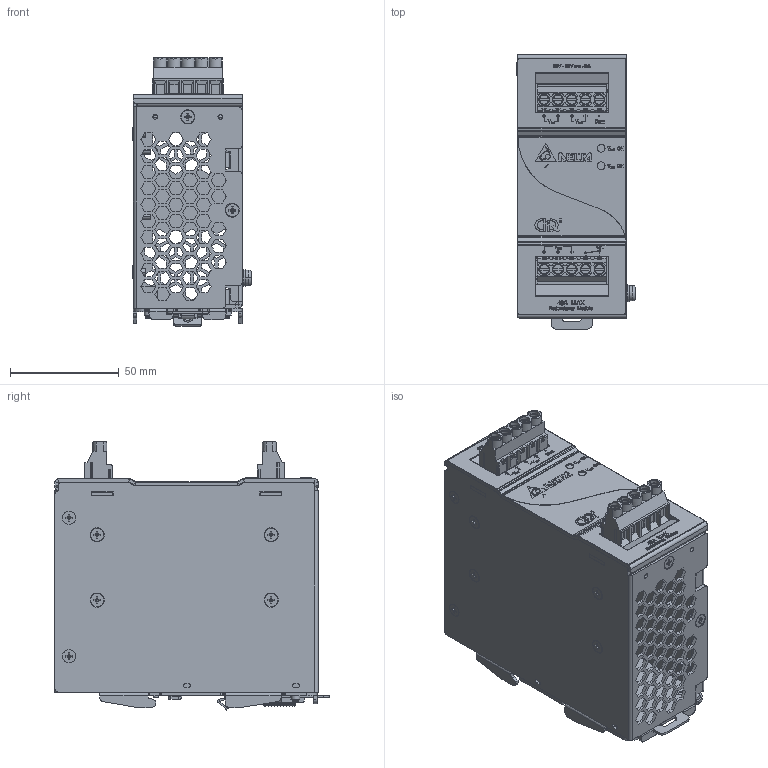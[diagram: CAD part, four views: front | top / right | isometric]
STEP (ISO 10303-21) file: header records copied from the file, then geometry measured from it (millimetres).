
FILE_DESCRIPTION((''),'2;1');
FILE_NAME('DRR-40A_ASM','2012-04-20T',('Manop.Pr'),(''),'PRO/ENGINEER BY PARAMETRIC TECHNOLOGY CORPORATION, 2010180','PRO/ENGINEER BY PARAMETRIC TECHNOLOGY CORPORATION, 2010180','');
FILE_SCHEMA(('CONFIG_CONTROL_DESIGN','SHAPE_APPEARANCE_LAYERS_GROUPS'));
Products named in the file (20): 330306690101; 330307100101; 330306700000; 326307580101; 3268209100; 3202315200; 3461303000; 3460088100; 3462026200; ASSY_LATCH_50X100_ASM; 2958044300; 3244627000; 3073461746; EE_LED11-21_2300221331; ASSY_PWB_ASM; 3100000600; 3100000800; 3105343000; 3100020600; DRR-40A_ASM
Assembly tree (36 placements, depth 3):
  DRR-40A_ASM
    330306690101
    330307100101
    330306700000
    326307580101
    3268209100
    3202315200
    ASSY_LATCH_50X100_ASM
      3461303000
      3460088100
      3462026200
    ASSY_PWB_ASM
      2958044300
      3244627000  x2
      3073461746  x2
      EE_LED11-21_2300221331  x2
    3100000600  x5
    3100000800  x8
    3105343000
    3100020600  x4
Bounding box: 54.4 x 126 x 123.24 mm (x, y, z)
Volume: 93916.3 mm3; surface area: 144672.8 mm2
Topology: 36 solids, 36 shells, 5389 faces, 14064 edges, 8907 vertices
Faces by surface type: plane 3543, cylinder 772, extrusion 664, cone 196, bspline 164, torus 34, sphere 16
Entity records: 177396 total; most frequent: CARTESIAN_POINT 36295, ORIENTED_EDGE 22940, DIRECTION 19253, EDGE_CURVE 11470, PRESENTATION_STYLE_ASSIGNMENT 11182, STYLED_ITEM 11045, CURVE_STYLE 11030, VECTOR 9359
